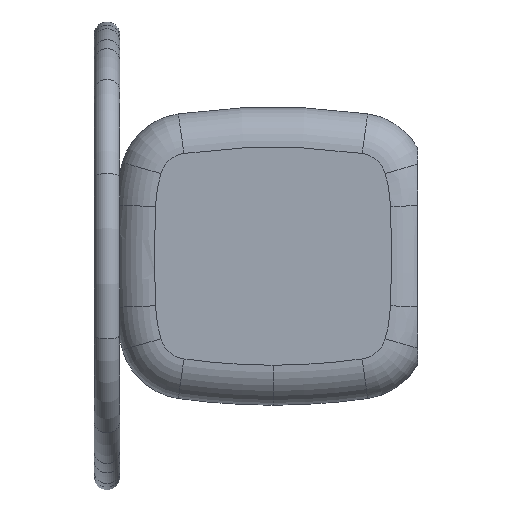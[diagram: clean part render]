
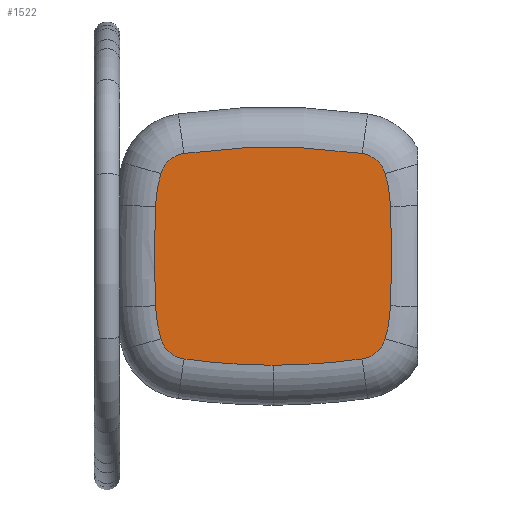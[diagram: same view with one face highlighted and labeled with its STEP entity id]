
A CAD part, left-side view. The second image highlights one B-rep face of the part: STEP entity #1522.
In plain terms, the highlighted planar face has unit normal (-1, 0, 0).
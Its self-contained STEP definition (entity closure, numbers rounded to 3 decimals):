
#93 = CARTESIAN_POINT ( 'NONE',  ( -427., 194.978, -52.125 ) ) ;
#108 = VERTEX_POINT ( 'NONE', #410 ) ;
#114 = DIRECTION ( 'NONE',  ( 1., 0., 0. ) ) ;
#150 = CIRCLE ( 'NONE', #3725, 33. ) ;
#161 = ORIENTED_EDGE ( 'NONE', *, *, #774, .F. ) ;
#283 = EDGE_CURVE ( 'NONE', #5857, #6935, #523, .T. ) ;
#296 = AXIS2_PLACEMENT_3D ( 'NONE', #2910, #2840, #2410 ) ;
#349 = ORIENTED_EDGE ( 'NONE', *, *, #1826, .F. ) ;
#368 = VERTEX_POINT ( 'NONE', #5353 ) ;
#410 = CARTESIAN_POINT ( 'NONE',  ( -427., 38.29, -97.047 ) ) ;
#474 = DIRECTION ( 'NONE',  ( 1., 0., 0. ) ) ;
#512 = PLANE ( 'NONE',  #4183 ) ;
#523 = CIRCLE ( 'NONE', #5851, 163. ) ;
#568 = CARTESIAN_POINT ( 'NONE',  ( -427., 170., -617.812 ) ) ;
#583 = DIRECTION ( 'NONE',  ( 1., 0., 0. ) ) ;
#591 = EDGE_CURVE ( 'NONE', #108, #5245, #6534, .T. ) ;
#774 = EDGE_CURVE ( 'NONE', #1511, #368, #1219, .T. ) ;
#882 = DIRECTION ( 'NONE',  ( 1., 0., 0. ) ) ;
#1030 = DIRECTION ( 'NONE',  ( 0., 0.961, 0.276 ) ) ;
#1054 = DIRECTION ( 'NONE',  ( 0., -0.999, 0.038 ) ) ;
#1097 = DIRECTION ( 'NONE',  ( 1., 0., 0. ) ) ;
#1116 = ORIENTED_EDGE ( 'NONE', *, *, #283, .F. ) ;
#1219 = CIRCLE ( 'NONE', #5268, 163. ) ;
#1361 = CARTESIAN_POINT ( 'NONE',  ( -427., 274.617, 120.626 ) ) ;
#1436 = EDGE_CURVE ( 'NONE', #1698, #4112, #3021, .T. ) ;
#1511 = VERTEX_POINT ( 'NONE', #6041 ) ;
#1522 = ADVANCED_FACE ( 'NONE', ( #5533 ), #512, .F. ) ;
#1544 = CIRCLE ( 'NONE', #5706, 745.812 ) ;
#1698 = VERTEX_POINT ( 'NONE', #5874 ) ;
#1726 = ORIENTED_EDGE ( 'NONE', *, *, #591, .F. ) ;
#1735 = DIRECTION ( 'NONE',  ( 1., 0., 0. ) ) ;
#1763 = DIRECTION ( 'NONE',  ( 0., 0.999, 0.038 ) ) ;
#1808 = DIRECTION ( 'NONE',  ( 0., -0.961, 0.276 ) ) ;
#1826 = EDGE_CURVE ( 'NONE', #6935, #4200, #3608, .T. ) ;
#1827 = EDGE_CURVE ( 'NONE', #4200, #108, #2103, .T. ) ;
#1852 = CARTESIAN_POINT ( 'NONE',  ( -427., 301.71, 97.047 ) ) ;
#1908 = CIRCLE ( 'NONE', #2950, 163. ) ;
#1970 = CARTESIAN_POINT ( 'NONE',  ( -427., 32.092, -58.237 ) ) ;
#2053 = CARTESIAN_POINT ( 'NONE',  ( -427., 170., 617.812 ) ) ;
#2103 = CIRCLE ( 'NONE', #3838, 163. ) ;
#2169 = CARTESIAN_POINT ( 'NONE',  ( -427., 194.978, 52.125 ) ) ;
#2170 = EDGE_CURVE ( 'NONE', #4703, #3075, #2685, .T. ) ;
#2357 = ORIENTED_EDGE ( 'NONE', *, *, #1827, .F. ) ;
#2410 = DIRECTION ( 'NONE',  ( 0., -0.961, -0.276 ) ) ;
#2440 = CARTESIAN_POINT ( 'NONE',  ( -427., 145.022, -52.125 ) ) ;
#2495 = DIRECTION ( 'NONE',  ( 0., 0.999, -0.038 ) ) ;
#2564 = ORIENTED_EDGE ( 'NONE', *, *, #1436, .F. ) ;
#2685 = CIRCLE ( 'NONE', #3613, 745.812 ) ;
#2724 = DIRECTION ( 'NONE',  ( 0., 0.14, 0.99 ) ) ;
#2770 = DIRECTION ( 'NONE',  ( 0., 0., -1. ) ) ;
#2840 = DIRECTION ( 'NONE',  ( 1., 0., 0. ) ) ;
#2910 = CARTESIAN_POINT ( 'NONE',  ( -427., 70.012, -87.952 ) ) ;
#2950 = AXIS2_PLACEMENT_3D ( 'NONE', #4995, #114, #1763 ) ;
#3021 = CIRCLE ( 'NONE', #5567, 745.812 ) ;
#3022 = ORIENTED_EDGE ( 'NONE', *, *, #2170, .F. ) ;
#3075 = VERTEX_POINT ( 'NONE', #7023 ) ;
#3098 = EDGE_CURVE ( 'NONE', #5245, #1698, #1544, .T. ) ;
#3254 = DIRECTION ( 'NONE',  ( 0., -0.999, -0.038 ) ) ;
#3402 = ORIENTED_EDGE ( 'NONE', *, *, #3805, .F. ) ;
#3431 = ORIENTED_EDGE ( 'NONE', *, *, #4353, .F. ) ;
#3504 = DIRECTION ( 'NONE',  ( 1., 0., 0. ) ) ;
#3516 = VERTEX_POINT ( 'NONE', #1852 ) ;
#3564 = CARTESIAN_POINT ( 'NONE',  ( -427., 269.988, 87.952 ) ) ;
#3608 = CIRCLE ( 'NONE', #5000, 1553. ) ;
#3613 = AXIS2_PLACEMENT_3D ( 'NONE', #568, #4949, #2724 ) ;
#3646 = CARTESIAN_POINT ( 'NONE',  ( -427., 269.988, -87.952 ) ) ;
#3725 = AXIS2_PLACEMENT_3D ( 'NONE', #5837, #882, #5367 ) ;
#3765 = DIRECTION ( 'NONE',  ( 0., -0.14, -0.99 ) ) ;
#3788 = DIRECTION ( 'NONE',  ( 0., -0.14, -0.99 ) ) ;
#3805 = EDGE_CURVE ( 'NONE', #4112, #1511, #4206, .T. ) ;
#3838 = AXIS2_PLACEMENT_3D ( 'NONE', #93, #1097, #3254 ) ;
#4112 = VERTEX_POINT ( 'NONE', #4482 ) ;
#4183 = AXIS2_PLACEMENT_3D ( 'NONE', #6665, #583, #2770 ) ;
#4200 = VERTEX_POINT ( 'NONE', #1970 ) ;
#4206 = CIRCLE ( 'NONE', #5251, 33. ) ;
#4221 = AXIS2_PLACEMENT_3D ( 'NONE', #5214, #4679, #2495 ) ;
#4353 = EDGE_CURVE ( 'NONE', #3516, #4703, #6061, .T. ) ;
#4356 = CARTESIAN_POINT ( 'NONE',  ( -427., 307.908, 58.238 ) ) ;
#4482 = CARTESIAN_POINT ( 'NONE',  ( -427., 274.617, -120.626 ) ) ;
#4498 = EDGE_LOOP ( 'NONE', ( #3431, #6170, #6625, #161, #3402, #2564, #5204, #1726, #2357, #349, #1116, #6484, #3022 ) ) ;
#4668 = DIRECTION ( 'NONE',  ( 0., 0.961, -0.276 ) ) ;
#4679 = DIRECTION ( 'NONE',  ( 1., 0., 0. ) ) ;
#4703 = VERTEX_POINT ( 'NONE', #1361 ) ;
#4794 = AXIS2_PLACEMENT_3D ( 'NONE', #3564, #5276, #1030 ) ;
#4812 = DIRECTION ( 'NONE',  ( 1., 0., 0. ) ) ;
#4847 = EDGE_CURVE ( 'NONE', #368, #6839, #6171, .T. ) ;
#4949 = DIRECTION ( 'NONE',  ( 1., 0., 0. ) ) ;
#4995 = CARTESIAN_POINT ( 'NONE',  ( -427., 145.022, 52.125 ) ) ;
#5000 = AXIS2_PLACEMENT_3D ( 'NONE', #6011, #1735, #1054 ) ;
#5147 = CARTESIAN_POINT ( 'NONE',  ( -427., 65.383, -120.626 ) ) ;
#5204 = ORIENTED_EDGE ( 'NONE', *, *, #3098, .F. ) ;
#5214 = CARTESIAN_POINT ( 'NONE',  ( -427., -1244., 0. ) ) ;
#5245 = VERTEX_POINT ( 'NONE', #5147 ) ;
#5251 = AXIS2_PLACEMENT_3D ( 'NONE', #3646, #4812, #6470 ) ;
#5268 = AXIS2_PLACEMENT_3D ( 'NONE', #2440, #7022, #4668 ) ;
#5276 = DIRECTION ( 'NONE',  ( 1., 0., 0. ) ) ;
#5353 = CARTESIAN_POINT ( 'NONE',  ( -427., 307.908, -58.237 ) ) ;
#5367 = DIRECTION ( 'NONE',  ( 0., -0.14, 0.99 ) ) ;
#5410 = CARTESIAN_POINT ( 'NONE',  ( -427., 38.29, 97.047 ) ) ;
#5533 = FACE_OUTER_BOUND ( 'NONE', #4498, .T. ) ;
#5567 = AXIS2_PLACEMENT_3D ( 'NONE', #6080, #474, #3765 ) ;
#5575 = EDGE_CURVE ( 'NONE', #6839, #3516, #1908, .T. ) ;
#5706 = AXIS2_PLACEMENT_3D ( 'NONE', #2053, #6540, #3788 ) ;
#5837 = CARTESIAN_POINT ( 'NONE',  ( -427., 70.012, 87.952 ) ) ;
#5851 = AXIS2_PLACEMENT_3D ( 'NONE', #2169, #3504, #1808 ) ;
#5857 = VERTEX_POINT ( 'NONE', #5410 ) ;
#5874 = CARTESIAN_POINT ( 'NONE',  ( -427., 170., -128. ) ) ;
#6011 = CARTESIAN_POINT ( 'NONE',  ( -427., 1584., 0. ) ) ;
#6041 = CARTESIAN_POINT ( 'NONE',  ( -427., 301.71, -97.047 ) ) ;
#6061 = CIRCLE ( 'NONE', #4794, 33. ) ;
#6080 = CARTESIAN_POINT ( 'NONE',  ( -427., 170., 617.812 ) ) ;
#6170 = ORIENTED_EDGE ( 'NONE', *, *, #5575, .F. ) ;
#6171 = CIRCLE ( 'NONE', #4221, 1553. ) ;
#6470 = DIRECTION ( 'NONE',  ( 0., 0.14, -0.99 ) ) ;
#6484 = ORIENTED_EDGE ( 'NONE', *, *, #6876, .F. ) ;
#6534 = CIRCLE ( 'NONE', #296, 33. ) ;
#6540 = DIRECTION ( 'NONE',  ( 1., 0., 0. ) ) ;
#6625 = ORIENTED_EDGE ( 'NONE', *, *, #4847, .F. ) ;
#6665 = CARTESIAN_POINT ( 'NONE',  ( -427., 207.505, 70.039 ) ) ;
#6839 = VERTEX_POINT ( 'NONE', #4356 ) ;
#6876 = EDGE_CURVE ( 'NONE', #3075, #5857, #150, .T. ) ;
#6935 = VERTEX_POINT ( 'NONE', #7066 ) ;
#7022 = DIRECTION ( 'NONE',  ( 1., 0., 0. ) ) ;
#7023 = CARTESIAN_POINT ( 'NONE',  ( -427., 65.383, 120.626 ) ) ;
#7066 = CARTESIAN_POINT ( 'NONE',  ( -427., 32.092, 58.238 ) ) ;
